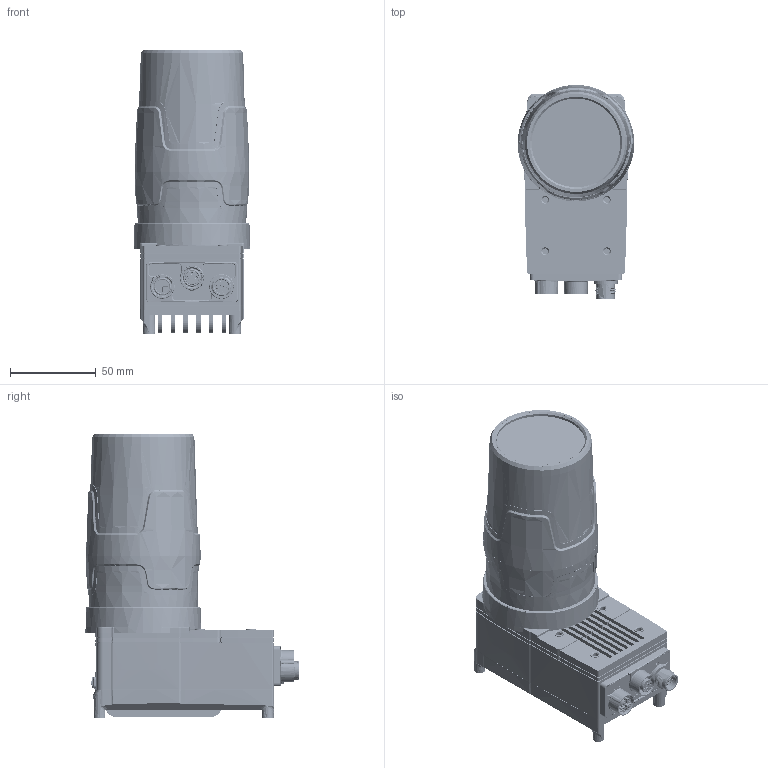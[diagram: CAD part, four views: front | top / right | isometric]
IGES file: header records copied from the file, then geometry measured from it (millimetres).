
Start section: SolidWorks IGES file using analytic representation for surfaces
Global section: file name: M:\IS017\IS017-03\IS017-03_6-27-18.IGS; native system: SolidWorks 2018; preprocessor: SolidWorks 2018; author: rgainer; date: 180712.095000; units: millimetre
Bounding box: 68.03 x 124.84 x 165.7 mm (x, y, z)
Surface area: 147084.6 mm2 (no closed solid volume)
Topology: 0 solids, 0 shells, 5010 faces, 53836 edges, 53750 vertices
Faces by surface type: bspline 2770, revolution 2240
